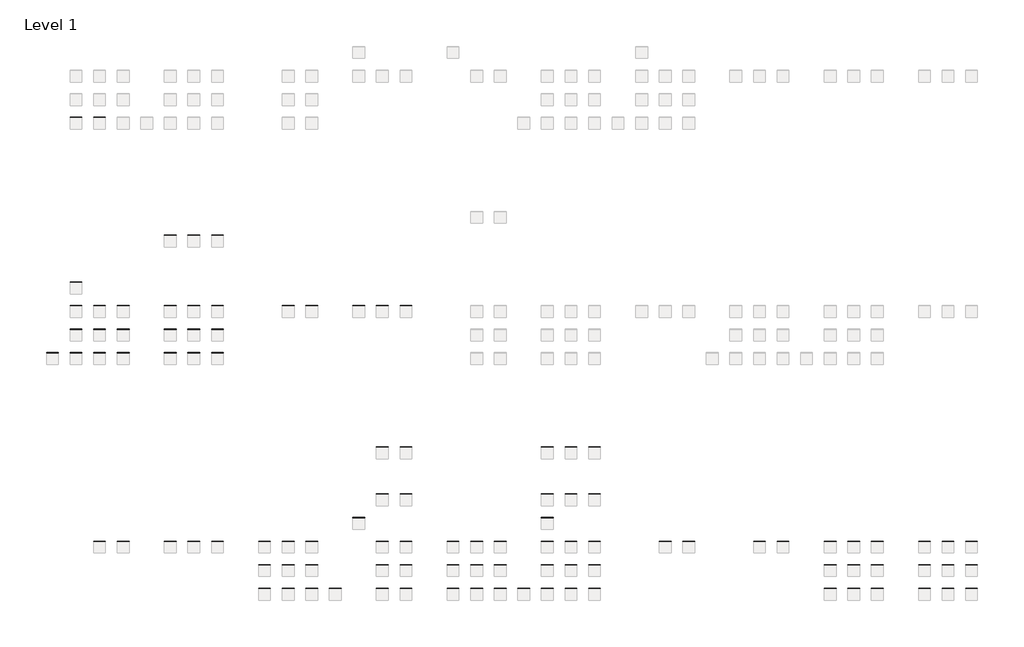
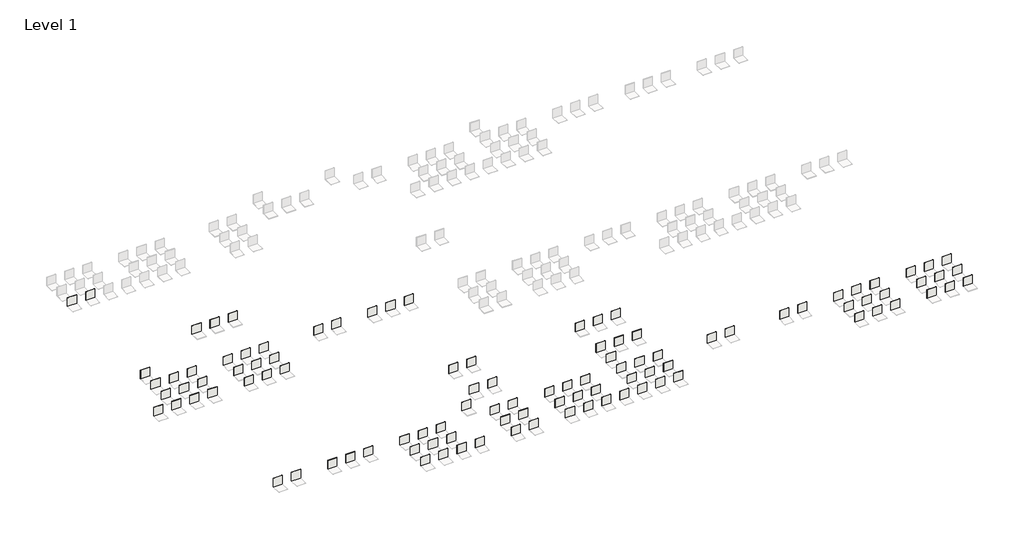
# One storey, part 1 of 4: 104 coverings.
"""IFC4 building model written with IfcOpenShell, lengths in millimetres."""

import ifcopenshell
import ifcopenshell.guid

model = None  # the IFC model being written
_history = None  # IfcOwnerHistory: only IFC2X3 demands one
_inside = {}  # id of a spatial element -> (the spatial element, [elements in it])
_under = {}  # id of a project, library or spatial element -> (it, [spatial elements below it])
_declared = {}  # id of a project -> (the project, [libraries it declares])
_typed = {}  # id of a type object -> (the type object, [elements of that type])
_made_of = {}  # id of a material, layer set ... -> (it, [elements and type objects made of it])


def new_model(schema):
    """Start an empty IFC model of exactly this schema.

    Asked for "IFC4X3", IfcOpenShell would pick the latest addendum, in which some entities
    have other attributes; the version numbers below select the first issue.
    IFC2X3 requires an IfcOwnerHistory on every rooted entity: one is made here for all.
    """
    global model, _history
    if schema == "IFC4X3":
        model = ifcopenshell.file(schema_version=(4, 3, 0, 0))
    else:
        model = ifcopenshell.file(schema=schema)
    _inside.clear()
    _under.clear()
    _declared.clear()
    _typed.clear()
    _made_of.clear()
    _history = None
    if model.schema == "IFC2X3":
        org = make("IfcOrganization", Name="unknown")
        user = make(
            "IfcPersonAndOrganization",
            ThePerson=make("IfcPerson", FamilyName="unknown"),
            TheOrganization=org,
        )
        app = make(
            "IfcApplication",
            ApplicationDeveloper=org,
            Version="unknown",
            ApplicationFullName="unknown",
            ApplicationIdentifier="unknown",
        )
        _history = make(
            "IfcOwnerHistory",
            OwningUser=user,
            OwningApplication=app,
            ChangeAction="ADDED",
            CreationDate=0,
        )
    return model


def make(cls, **values):
    """One entity of the class cls with the attributes given. An attribute that is None is left unset."""
    return model.create_entity(
        cls, **{name: value for name, value in values.items() if value is not None}
    )


def rooted(cls, **values):
    """An entity with a GlobalId (a new one), such as an element, a storey or a relation."""
    return make(cls, GlobalId=ifcopenshell.guid.new(), OwnerHistory=_history, **values)


def si_unit(unit_type, name, prefix=None):
    """IfcSIUnit, for example si_unit("LENGTHUNIT", "METRE", prefix="MILLI")."""
    return make("IfcSIUnit", UnitType=unit_type, Prefix=prefix, Name=name)


def assignment(units):
    """IfcUnitAssignment: the units of a project."""
    return None if units is None else make("IfcUnitAssignment", Units=units)


def point(xyz):
    """IfcCartesianPoint."""
    return None if xyz is None else make("IfcCartesianPoint", Coordinates=xyz)


def direction(xyz):
    """IfcDirection."""
    return None if xyz is None else make("IfcDirection", DirectionRatios=xyz)


def frame(location, z_axis=None, x_axis=None):
    """IfcAxis2Placement3D, a coordinate frame: its origin and axes. An axis left out is left unset."""
    return make(
        "IfcAxis2Placement3D",
        Location=point(location),
        Axis=direction(z_axis),
        RefDirection=direction(x_axis),
    )


def origin():
    """The frame at (0, 0, 0) with its axes left unset."""
    return frame((0.0, 0.0, 0.0))


def origin_with_axes():
    """The frame at (0, 0, 0) with the z axis (0, 0, 1) and the x axis (1, 0, 0) written out."""
    return frame((0.0, 0.0, 0.0), z_axis=(0.0, 0.0, 1.0), x_axis=(1.0, 0.0, 0.0))


def place(relative_to, where):
    """IfcLocalPlacement: puts the frame where relative to a parent placement (None: the world)."""
    return make(
        "IfcLocalPlacement", PlacementRelTo=relative_to, RelativePlacement=where
    )


def context(
    kind, dimensions, precision=None, world=None, true_north=None, identifier=None
):
    """IfcGeometricRepresentationContext, for example the 3D "Model" context."""
    return make(
        "IfcGeometricRepresentationContext",
        ContextIdentifier=identifier,
        ContextType=kind,
        CoordinateSpaceDimension=dimensions,
        Precision=precision,
        WorldCoordinateSystem=world,
        TrueNorth=true_north,
    )


def project(units=None, contexts=None):
    """IfcProject with its units and contexts."""
    return rooted(
        "IfcProject",
        Name="project",
        RepresentationContexts=contexts,
        UnitsInContext=assignment(units),
    )


def spatial(cls, under=None, at=None, **own):
    """A site, building, storey or space (cls), placed at a placement, below another one or the project."""
    s = rooted(cls, ObjectPlacement=at, **own)
    if under is not None:
        _under.setdefault(under.id(), (under, []))[1].append(s)
    return s


def polyline(points):
    """IfcPolyline through the points."""
    return make("IfcPolyline", Points=[point(p) for p in points])


def outline(outer, holes=None, kind="AREA"):
    """IfcArbitraryClosedProfileDef: a profile drawn as a closed curve; with holes, ...WithVoids."""
    if holes is None:
        return make("IfcArbitraryClosedProfileDef", ProfileType=kind, OuterCurve=outer)
    return make(
        "IfcArbitraryProfileDefWithVoids",
        ProfileType=kind,
        OuterCurve=outer,
        InnerCurves=holes,
    )


def extrude(swept, where, along, depth):
    """IfcExtrudedAreaSolid: the profile swept, set in the frame where, extruded along a direction by depth."""
    return make(
        "IfcExtrudedAreaSolid",
        SweptArea=swept,
        Position=where,
        ExtrudedDirection=direction(along),
        Depth=depth,
    )


def shape(context_of_items, identifier, shape_type, items):
    """IfcShapeRepresentation: the items that make up one representation, for example the "Body"."""
    return make(
        "IfcShapeRepresentation",
        ContextOfItems=context_of_items,
        RepresentationIdentifier=identifier,
        RepresentationType=shape_type,
        Items=items,
    )


def made_of(thing, what):
    """Note that an element or type object is made of a material, layer set ...; save() writes the relation."""
    if what is not None:
        _made_of.setdefault(what.id(), (what, []))[1].append(thing)
    return thing


def element(
    cls,
    number,
    at=None,
    inside=None,
    cuts=None,
    type_object=None,
    material=None,
    context=None,
    identifier="Body",
    shape_type=None,
    held_by="IfcProductDefinitionShape",
    body=None,
    shapes=None,
    **own,
):
    """One element of the class cls, such as IfcWall. Its Tag is "e" and its number.

    at: its placement. inside: the storey or other place that contains it. cuts: it is an
    opening in that element (IfcRelVoidsElement). A single representation is given by context,
    identifier, shape_type and body (its items); several are given by shapes. held_by: the class
    of the entity that holds the representations. save() writes the other relations.
    """
    e = rooted(cls, Tag="e%d" % number, ObjectPlacement=at, **own)
    if body is not None:
        shapes = [shape(context, identifier, shape_type, body)]
    if shapes is not None:
        e.Representation = make(held_by, Representations=shapes)
    if inside is not None:
        _inside.setdefault(inside.id(), (inside, []))[1].append(e)
    if cuts is not None:
        rooted(
            "IfcRelVoidsElement", RelatingBuildingElement=cuts, RelatedOpeningElement=e
        )
    if type_object is not None:
        _typed.setdefault(type_object.id(), (type_object, []))[1].append(e)
    return made_of(e, material)


def aggregate(whole, parts):
    """IfcRelAggregates: a whole, such as a stair, and the parts it consists of."""
    return rooted("IfcRelAggregates", RelatingObject=whole, RelatedObjects=parts)


def save(model, path):
    """Write the relations noted so far, then the file.

    IfcRelAggregates (storeys below a building ...), IfcRelContainedInSpatialStructure (elements
    in a storey), IfcRelDefinesByType, IfcRelAssociatesMaterial and IfcRelDeclares: one each for
    every whole, place, type object, material and project.
    """
    for whole, parts in _under.values():
        aggregate(whole, parts)
    for where, things in _inside.values():
        rooted(
            "IfcRelContainedInSpatialStructure",
            RelatedElements=things,
            RelatingStructure=where,
        )
    for kind, things in _typed.values():
        rooted("IfcRelDefinesByType", RelatedObjects=things, RelatingType=kind)
    for what, things in _made_of.values():
        rooted("IfcRelAssociatesMaterial", RelatedObjects=things, RelatingMaterial=what)
    for by, libraries in _declared.values():
        rooted("IfcRelDeclares", RelatingContext=by, RelatedDefinitions=libraries)
    model.write(path)


model = new_model("IFC4")

# Units and contexts
model_context = context("Model", 3, world=origin())
ifc_project = project(units=[si_unit("LENGTHUNIT", "METRE", prefix="MILLI")], contexts=[model_context])

# Site, building, storey
site = spatial("IfcSite", under=ifc_project)
building = spatial("IfcBuilding", under=site)
storey = spatial("IfcBuildingStorey", under=building, Name="Level 1", Elevation=0.0)

# Coverings
placement = place(None, origin())
element("IfcCovering", 1, ObjectType="REVIGRÉS-CROMATICA-BASE-29,7x29,7-MATTRECT-Cromatica_alloy", at=placement, inside=storey, context=model_context, shape_type="SweptSolid", body=[
    extrude(outline(polyline([(3002.0475963, 27398.4324289), (2002.0475963, 27398.4324289), (2002.0475963, 27406.9324289), (3002.0475963, 27406.9324289), (3002.0475963, 27398.4324289)])), origin_with_axes(), (0.0, 0.0, 1.0), 1000.0),
])
element("IfcCovering", 2, ObjectType="REVIGRÉS-CROMATICA-BASE-29,7x29,7-POL-Cromatica_alloy", at=placement, inside=storey, context=model_context, shape_type="SweptSolid", body=[
    extrude(outline(polyline([(5002.0475963, 27398.6824289), (4002.0475963, 27398.6824289), (4002.0475963, 27406.6824289), (5002.0475963, 27406.6824289), (5002.0475963, 27398.6824289)])), origin_with_axes(), (0.0, 0.0, 1.0), 1000.0),
])
element("IfcCovering", 3, ObjectType="REVIGRÉS-CROMATICA-BASE-29,7x29,7-MATTRECT-Cromatica_grafite", at=placement, inside=storey, context=model_context, shape_type="SweptSolid", body=[
    extrude(outline(polyline([(3002.0475963, 7398.432429), (2002.0475963, 7398.432429), (2002.0475963, 7406.932429), (3002.0475963, 7406.932429), (3002.0475963, 7398.432429)])), origin_with_axes(), (0.0, 0.0, 1.0), 1000.0),
])
element("IfcCovering", 4, ObjectType="REVIGRÉS-CROMATICA-BASE-29,7x59,2-MATTRECT-Cromatica_grafite", at=placement, inside=storey, context=model_context, shape_type="SweptSolid", body=[
    extrude(outline(polyline([(3002.0475963, 9398.432429), (2002.0475963, 9398.432429), (2002.0475963, 9406.932429), (3002.0475963, 9406.932429), (3002.0475963, 9398.432429)])), origin_with_axes(), (0.0, 0.0, 1.0), 1000.0),
])
element("IfcCovering", 5, ObjectType="REVIGRÉS-CROMATICA-BASE-59,2x59,2-MATTRECT-Cromatica_grafite", at=placement, inside=storey, context=model_context, shape_type="SweptSolid", body=[
    extrude(outline(polyline([(3002.0475963, 11398.432429), (2002.0475963, 11398.432429), (2002.0475963, 11406.932429), (3002.0475963, 11406.932429), (3002.0475963, 11398.432429)])), origin_with_axes(), (0.0, 0.0, 1.0), 1000.0),
])
element("IfcCovering", 6, ObjectType="REVIGRÉS-CROMATICA-BASE-59,2x59,2_14mm-MATTRECT-Cromatica_grafite", at=placement, inside=storey, context=model_context, shape_type="SweptSolid", body=[
    extrude(outline(polyline([(3002.0475963, 13398.432429), (2002.0475963, 13398.432429), (2002.0475963, 13412.432429), (3002.0475963, 13412.432429), (3002.0475963, 13398.432429)])), origin_with_axes(), (0.0, 0.0, 1.0), 1000.0),
])
element("IfcCovering", 7, ObjectType="REVIGRÉS-CROMATICA-BASE-29,7x29,7-POL-Cromatica_grafite", at=placement, inside=storey, context=model_context, shape_type="SweptSolid", body=[
    extrude(outline(polyline([(5002.0475963, 7398.682429), (4002.0475963, 7398.682429), (4002.0475963, 7406.682429), (5002.0475963, 7406.682429), (5002.0475963, 7398.682429)])), origin_with_axes(), (0.0, 0.0, 1.0), 1000.0),
])
element("IfcCovering", 8, ObjectType="REVIGRÉS-CROMATICA-BASE-29,7x59,2-POL-Cromatica_grafite", at=placement, inside=storey, context=model_context, shape_type="SweptSolid", body=[
    extrude(outline(polyline([(5002.0475963, 9398.432429), (4002.0475963, 9398.432429), (4002.0475963, 9406.432429), (5002.0475963, 9406.432429), (5002.0475963, 9398.432429)])), origin_with_axes(), (0.0, 0.0, 1.0), 1000.0),
])
element("IfcCovering", 9, ObjectType="REVIGRÉS-CROMATICA-BASE-59,2x59,2-POL-Cromatica_grafite", at=placement, inside=storey, context=model_context, shape_type="SweptSolid", body=[
    extrude(outline(polyline([(5002.0475963, 11398.432429), (4002.0475963, 11398.432429), (4002.0475963, 11406.432429), (5002.0475963, 11406.432429), (5002.0475963, 11398.432429)])), origin_with_axes(), (0.0, 0.0, 1.0), 1000.0),
])
element("IfcCovering", 10, ObjectType="REVIGRÉS-CROMATICA-BASE-29,7x29,7-SOFT-Cromatica_grafite", at=placement, inside=storey, context=model_context, shape_type="SweptSolid", body=[
    extrude(outline(polyline([(7002.0475963, 7398.432429), (6002.0475963, 7398.432429), (6002.0475963, 7406.932429), (7002.0475963, 7406.932429), (7002.0475963, 7398.432429)])), origin_with_axes(), (0.0, 0.0, 1.0), 1000.0),
])
element("IfcCovering", 11, ObjectType="REVIGRÉS-CROMATICA-BASE-29,7x59,2-SOFT-Cromatica_grafite", at=placement, inside=storey, context=model_context, shape_type="SweptSolid", body=[
    extrude(outline(polyline([(7002.0475963, 9398.432429), (6002.0475963, 9398.432429), (6002.0475963, 9406.932429), (7002.0475963, 9406.932429), (7002.0475963, 9398.432429)])), origin_with_axes(), (0.0, 0.0, 1.0), 1000.0),
])
element("IfcCovering", 12, ObjectType="REVIGRÉS-CROMATICA-BASE-59,2x59,2-SOFT-Cromatica_grafite", at=placement, inside=storey, context=model_context, shape_type="SweptSolid", body=[
    extrude(outline(polyline([(7002.0475963, 11398.432429), (6002.0475963, 11398.432429), (6002.0475963, 11406.932429), (7002.0475963, 11406.932429), (7002.0475963, 11398.432429)])), origin_with_axes(), (0.0, 0.0, 1.0), 1000.0),
])
element("IfcCovering", 13, ObjectType="REVIGRÉS-CROMATICA-BASE-29,7x29,7-MATTRECT-Cromatica_ice", at=placement, inside=storey, context=model_context, shape_type="SweptSolid", body=[
    extrude(outline(polyline([(11002.0475963, 7398.432429), (10002.0475963, 7398.432429), (10002.0475963, 7406.932429), (11002.0475963, 7406.932429), (11002.0475963, 7398.432429)])), origin_with_axes(), (0.0, 0.0, 1.0), 1000.0),
])
element("IfcCovering", 14, ObjectType="REVIGRÉS-CROMATICA-BASE-29,7x59,2-MATTRECT-Cromatica_ice", at=placement, inside=storey, context=model_context, shape_type="SweptSolid", body=[
    extrude(outline(polyline([(11002.0475963, 9398.432429), (10002.0475963, 9398.432429), (10002.0475963, 9406.932429), (11002.0475963, 9406.932429), (11002.0475963, 9398.432429)])), origin_with_axes(), (0.0, 0.0, 1.0), 1000.0),
])
element("IfcCovering", 15, ObjectType="REVIGRÉS-CROMATICA-BASE-59,2x59,2-MATTRECT-Cromatica_ice", at=placement, inside=storey, context=model_context, shape_type="SweptSolid", body=[
    extrude(outline(polyline([(11002.0475963, 11398.432429), (10002.0475963, 11398.432429), (10002.0475963, 11406.932429), (11002.0475963, 11406.932429), (11002.0475963, 11398.432429)])), origin_with_axes(), (0.0, 0.0, 1.0), 1000.0),
])
element("IfcCovering", 16, ObjectType="REVIGRÉS-CROMATICA-BASE-29,7x29,7-POL-Cromatica_ice", at=placement, inside=storey, context=model_context, shape_type="SweptSolid", body=[
    extrude(outline(polyline([(13002.0475963, 7398.682429), (12002.0475963, 7398.682429), (12002.0475963, 7406.682429), (13002.0475963, 7406.682429), (13002.0475963, 7398.682429)])), origin_with_axes(), (0.0, 0.0, 1.0), 1000.0),
])
element("IfcCovering", 17, ObjectType="REVIGRÉS-CROMATICA-BASE-29,7x59,2-POL-Cromatica_ice", at=placement, inside=storey, context=model_context, shape_type="SweptSolid", body=[
    extrude(outline(polyline([(13002.0475963, 9398.432429), (12002.0475963, 9398.432429), (12002.0475963, 9406.432429), (13002.0475963, 9406.432429), (13002.0475963, 9398.432429)])), origin_with_axes(), (0.0, 0.0, 1.0), 1000.0),
])
element("IfcCovering", 18, ObjectType="REVIGRÉS-CROMATICA-BASE-59,2x59,2-POL-Cromatica_ice", at=placement, inside=storey, context=model_context, shape_type="SweptSolid", body=[
    extrude(outline(polyline([(13002.0475963, 11398.432429), (12002.0475963, 11398.432429), (12002.0475963, 11406.432429), (13002.0475963, 11406.432429), (13002.0475963, 11398.432429)])), origin_with_axes(), (0.0, 0.0, 1.0), 1000.0),
])
element("IfcCovering", 19, ObjectType="REVIGRÉS-CROMATICA-BASE-29,7x29,7-SOFT-Cromatica_ice", at=placement, inside=storey, context=model_context, shape_type="SweptSolid", body=[
    extrude(outline(polyline([(15002.0475963, 7398.432429), (14002.0475963, 7398.432429), (14002.0475963, 7406.932429), (15002.0475963, 7406.932429), (15002.0475963, 7398.432429)])), origin_with_axes(), (0.0, 0.0, 1.0), 1000.0),
])
element("IfcCovering", 20, ObjectType="REVIGRÉS-CROMATICA-BASE-29,7x59,2-SOFT-Cromatica_ice", at=placement, inside=storey, context=model_context, shape_type="SweptSolid", body=[
    extrude(outline(polyline([(15002.0475963, 9398.432429), (14002.0475963, 9398.432429), (14002.0475963, 9406.932429), (15002.0475963, 9406.932429), (15002.0475963, 9398.432429)])), origin_with_axes(), (0.0, 0.0, 1.0), 1000.0),
])
element("IfcCovering", 21, ObjectType="REVIGRÉS-CROMATICA-BASE-59,2x59,2-SOFT-Cromatica_ice", at=placement, inside=storey, context=model_context, shape_type="SweptSolid", body=[
    extrude(outline(polyline([(15002.0475963, 11398.432429), (14002.0475963, 11398.432429), (14002.0475963, 11406.932429), (15002.0475963, 11406.932429), (15002.0475963, 11398.432429)])), origin_with_axes(), (0.0, 0.0, 1.0), 1000.0),
])
element("IfcCovering", 22, ObjectType="REVIGRÉS-CROMATICA-BASE-59,2x59,2-POL-Cromatica_indigo", at=placement, inside=storey, context=model_context, shape_type="SweptSolid", body=[
    extrude(outline(polyline([(21002.0475963, 11398.432429), (20002.0475963, 11398.432429), (20002.0475963, 11406.432429), (21002.0475963, 11406.432429), (21002.0475963, 11398.432429)])), origin_with_axes(), (0.0, 0.0, 1.0), 1000.0),
])
element("IfcCovering", 23, ObjectType="REVIGRÉS-CROMATICA-BASE-59,2x59,2-SOFT-Cromatica_indigo", at=placement, inside=storey, context=model_context, shape_type="SweptSolid", body=[
    extrude(outline(polyline([(23002.0475963, 11398.432429), (22002.0475963, 11398.432429), (22002.0475963, 11406.932429), (23002.0475963, 11406.932429), (23002.0475963, 11398.432429)])), origin_with_axes(), (0.0, 0.0, 1.0), 1000.0),
])
element("IfcCovering", 24, ObjectType="REVIGRÉS-CROMATICA-BASE-87x87-MATTRECT-Cromatica_ice", at=placement, inside=storey, context=model_context, shape_type="SweptSolid", body=[
    extrude(outline(polyline([(11002.0475963, 17398.432429), (10002.0475963, 17398.432429), (10002.0475963, 17408.932429), (11002.0475963, 17408.932429), (11002.0475963, 17398.432429)])), origin_with_axes(), (0.0, 0.0, 1.0), 1000.0),
])
element("IfcCovering", 25, ObjectType="REVIGRÉS-CROMATICA-BASE-87x87-POL-Cromatica_ice", at=placement, inside=storey, context=model_context, shape_type="SweptSolid", body=[
    extrude(outline(polyline([(13002.0475963, 17398.432429), (12002.0475963, 17398.432429), (12002.0475963, 17408.232429), (13002.0475963, 17408.232429), (13002.0475963, 17398.432429)])), origin_with_axes(), (0.0, 0.0, 1.0), 1000.0),
])
element("IfcCovering", 26, ObjectType="REVIGRÉS-CROMATICA-BASE-87x87-SOFT-Cromatica_ice", at=placement, inside=storey, context=model_context, shape_type="SweptSolid", body=[
    extrude(outline(polyline([(15002.0475963, 17398.432429), (14002.0475963, 17398.432429), (14002.0475963, 17408.932429), (15002.0475963, 17408.932429), (15002.0475963, 17398.432429)])), origin_with_axes(), (0.0, 0.0, 1.0), 1000.0),
])
element("IfcCovering", 27, ObjectType="REVIGRÉS-CROMATICA-BASE-59,2x59,2-MATTRECT-Cromatica_jade", at=placement, inside=storey, context=model_context, shape_type="SweptSolid", body=[
    extrude(outline(polyline([(27002.0475963, 11398.432429), (26002.0475963, 11398.432429), (26002.0475963, 11406.932429), (27002.0475963, 11406.932429), (27002.0475963, 11398.432429)])), origin_with_axes(), (0.0, 0.0, 1.0), 1000.0),
])
element("IfcCovering", 28, ObjectType="REVIGRÉS-CROMATICA-BASE-59,2x59,2-POL-Cromatica_jade", at=placement, inside=storey, context=model_context, shape_type="SweptSolid", body=[
    extrude(outline(polyline([(29002.0475963, 11398.432429), (28002.0475963, 11398.432429), (28002.0475963, 11406.432429), (29002.0475963, 11406.432429), (29002.0475963, 11398.432429)])), origin_with_axes(), (0.0, 0.0, 1.0), 1000.0),
])
element("IfcCovering", 29, ObjectType="REVIGRÉS-CROMATICA-BASE-59,2x59,2-SOFT-Cromatica_jade", at=placement, inside=storey, context=model_context, shape_type="SweptSolid", body=[
    extrude(outline(polyline([(31002.0475963, 11398.432429), (30002.0475963, 11398.432429), (30002.0475963, 11406.932429), (31002.0475963, 11406.932429), (31002.0475963, 11398.432429)])), origin_with_axes(), (0.0, 0.0, 1.0), 1000.0),
])
element("IfcCovering", 30, ObjectType="REVIGRÉS-CROMATICA-BASE-59,2x59,2-POL-Cromatica_palm", at=placement, inside=storey, context=model_context, shape_type="SweptSolid", body=[
    extrude(outline(polyline([(5002.0475963, -8601.567571), (4002.0475963, -8601.567571), (4002.0475963, -8593.567571), (5002.0475963, -8593.567571), (5002.0475963, -8601.567571)])), origin_with_axes(), (0.0, 0.0, 1.0), 1000.0),
])
element("IfcCovering", 31, ObjectType="REVIGRÉS-CROMATICA-BASE-59,2x59,2-SOFT-Cromatica_palm", at=placement, inside=storey, context=model_context, shape_type="SweptSolid", body=[
    extrude(outline(polyline([(7002.0475963, -8601.567571), (6002.0475963, -8601.567571), (6002.0475963, -8593.067571), (7002.0475963, -8593.067571), (7002.0475963, -8601.567571)])), origin_with_axes(), (0.0, 0.0, 1.0), 1000.0),
])
element("IfcCovering", 32, ObjectType="REVIGRÉS-CROMATICA-BASE-59,2x59,2-POL-Cromatica_pistachio", at=placement, inside=storey, context=model_context, shape_type="SweptSolid", body=[
    extrude(outline(polyline([(13002.0475963, -8601.567571), (12002.0475963, -8601.567571), (12002.0475963, -8593.567571), (13002.0475963, -8593.567571), (13002.0475963, -8601.567571)])), origin_with_axes(), (0.0, 0.0, 1.0), 1000.0),
])
element("IfcCovering", 33, ObjectType="REVIGRÉS-CROMATICA-BASE-59,2x59,2-SOFT-Cromatica_pistachio", at=placement, inside=storey, context=model_context, shape_type="SweptSolid", body=[
    extrude(outline(polyline([(15002.0475963, -8601.567571), (14002.0475963, -8601.567571), (14002.0475963, -8593.067571), (15002.0475963, -8593.067571), (15002.0475963, -8601.567571)])), origin_with_axes(), (0.0, 0.0, 1.0), 1000.0),
])
element("IfcCovering", 34, ObjectType="REVIGRÉS-CROMATICA-BASE-29,7x29,7-MATTRECT-Cromatica_platina", at=placement, inside=storey, context=model_context, shape_type="SweptSolid", body=[
    extrude(outline(polyline([(19002.0475963, -12601.567571), (18002.0475963, -12601.567571), (18002.0475963, -12593.067571), (19002.0475963, -12593.067571), (19002.0475963, -12601.567571)])), origin_with_axes(), (0.0, 0.0, 1.0), 1000.0),
])
element("IfcCovering", 35, ObjectType="REVIGRÉS-CROMATICA-BASE-29,7x59,2-MATTRECT-Cromatica_platina", at=placement, inside=storey, context=model_context, shape_type="SweptSolid", body=[
    extrude(outline(polyline([(19002.0475963, -10601.567571), (18002.0475963, -10601.567571), (18002.0475963, -10593.067571), (19002.0475963, -10593.067571), (19002.0475963, -10601.567571)])), origin_with_axes(), (0.0, 0.0, 1.0), 1000.0),
])
element("IfcCovering", 36, ObjectType="REVIGRÉS-CROMATICA-BASE-59,2x59,2-MATTRECT-Cromatica_platina", at=placement, inside=storey, context=model_context, shape_type="SweptSolid", body=[
    extrude(outline(polyline([(19002.0475963, -8601.567571), (18002.0475963, -8601.567571), (18002.0475963, -8593.067571), (19002.0475963, -8593.067571), (19002.0475963, -8601.567571)])), origin_with_axes(), (0.0, 0.0, 1.0), 1000.0),
])
element("IfcCovering", 37, ObjectType="REVIGRÉS-CROMATICA-BASE-29,7x29,7-POL-Cromatica_platina", at=placement, inside=storey, context=model_context, shape_type="SweptSolid", body=[
    extrude(outline(polyline([(21002.0475963, -12601.317571), (20002.0475963, -12601.317571), (20002.0475963, -12593.317571), (21002.0475963, -12593.317571), (21002.0475963, -12601.317571)])), origin_with_axes(), (0.0, 0.0, 1.0), 1000.0),
])
element("IfcCovering", 38, ObjectType="REVIGRÉS-CROMATICA-BASE-29,7x59,2-POL-Cromatica_platina", at=placement, inside=storey, context=model_context, shape_type="SweptSolid", body=[
    extrude(outline(polyline([(21002.0475963, -10601.567571), (20002.0475963, -10601.567571), (20002.0475963, -10593.567571), (21002.0475963, -10593.567571), (21002.0475963, -10601.567571)])), origin_with_axes(), (0.0, 0.0, 1.0), 1000.0),
])
element("IfcCovering", 39, ObjectType="REVIGRÉS-CROMATICA-BASE-59,2x59,2-POL-Cromatica_platina", at=placement, inside=storey, context=model_context, shape_type="SweptSolid", body=[
    extrude(outline(polyline([(21002.0475963, -8601.567571), (20002.0475963, -8601.567571), (20002.0475963, -8593.567571), (21002.0475963, -8593.567571), (21002.0475963, -8601.567571)])), origin_with_axes(), (0.0, 0.0, 1.0), 1000.0),
])
element("IfcCovering", 40, ObjectType="REVIGRÉS-CROMATICA-BASE-29,7x29,7-SOFT-Cromatica_platina", at=placement, inside=storey, context=model_context, shape_type="SweptSolid", body=[
    extrude(outline(polyline([(23002.0475963, -12601.567571), (22002.0475963, -12601.567571), (22002.0475963, -12593.067571), (23002.0475963, -12593.067571), (23002.0475963, -12601.567571)])), origin_with_axes(), (0.0, 0.0, 1.0), 1000.0),
])
element("IfcCovering", 41, ObjectType="REVIGRÉS-CROMATICA-BASE-29,7x59,2-SOFT-Cromatica_platina", at=placement, inside=storey, context=model_context, shape_type="SweptSolid", body=[
    extrude(outline(polyline([(23002.0475963, -10601.567571), (22002.0475963, -10601.567571), (22002.0475963, -10593.067571), (23002.0475963, -10593.067571), (23002.0475963, -10601.567571)])), origin_with_axes(), (0.0, 0.0, 1.0), 1000.0),
])
element("IfcCovering", 42, ObjectType="REVIGRÉS-CROMATICA-BASE-59,2x59,2-SOFT-Cromatica_platina", at=placement, inside=storey, context=model_context, shape_type="SweptSolid", body=[
    extrude(outline(polyline([(23002.0475963, -8601.567571), (22002.0475963, -8601.567571), (22002.0475963, -8593.067571), (23002.0475963, -8593.067571), (23002.0475963, -8601.567571)])), origin_with_axes(), (0.0, 0.0, 1.0), 1000.0),
])
element("IfcCovering", 43, ObjectType="REVIGRÉS-CROMATICA-BASE-29,7x29,7-POL-Cromatica_preto", at=placement, inside=storey, context=model_context, shape_type="SweptSolid", body=[
    extrude(outline(polyline([(29002.0475963, -12601.317571), (28002.0475963, -12601.317571), (28002.0475963, -12593.317571), (29002.0475963, -12593.317571), (29002.0475963, -12601.317571)])), origin_with_axes(), (0.0, 0.0, 1.0), 1000.0),
])
element("IfcCovering", 44, ObjectType="REVIGRÉS-CROMATICA-BASE-29,7x59,2-POL-Cromatica_preto", at=placement, inside=storey, context=model_context, shape_type="SweptSolid", body=[
    extrude(outline(polyline([(29002.0475963, -10601.567571), (28002.0475963, -10601.567571), (28002.0475963, -10593.567571), (29002.0475963, -10593.567571), (29002.0475963, -10601.567571)])), origin_with_axes(), (0.0, 0.0, 1.0), 1000.0),
])
element("IfcCovering", 45, ObjectType="REVIGRÉS-CROMATICA-BASE-59,2x59,2-POL-Cromatica_preto", at=placement, inside=storey, context=model_context, shape_type="SweptSolid", body=[
    extrude(outline(polyline([(29002.0475963, -8601.567571), (28002.0475963, -8601.567571), (28002.0475963, -8593.567571), (29002.0475963, -8593.567571), (29002.0475963, -8601.567571)])), origin_with_axes(), (0.0, 0.0, 1.0), 1000.0),
])
element("IfcCovering", 46, ObjectType="REVIGRÉS-CROMATICA-BASE-29,7x29,7-SOFT-Cromatica_preto", at=placement, inside=storey, context=model_context, shape_type="SweptSolid", body=[
    extrude(outline(polyline([(31002.0475963, -12601.567571), (30002.0475963, -12601.567571), (30002.0475963, -12593.067571), (31002.0475963, -12593.067571), (31002.0475963, -12601.567571)])), origin_with_axes(), (0.0, 0.0, 1.0), 1000.0),
])
element("IfcCovering", 47, ObjectType="REVIGRÉS-CROMATICA-BASE-29,7x59,2-SOFT-Cromatica_preto", at=placement, inside=storey, context=model_context, shape_type="SweptSolid", body=[
    extrude(outline(polyline([(31002.0475963, -10601.567571), (30002.0475963, -10601.567571), (30002.0475963, -10593.067571), (31002.0475963, -10593.067571), (31002.0475963, -10601.567571)])), origin_with_axes(), (0.0, 0.0, 1.0), 1000.0),
])
element("IfcCovering", 48, ObjectType="REVIGRÉS-CROMATICA-BASE-59,2x59,2-SOFT-Cromatica_preto", at=placement, inside=storey, context=model_context, shape_type="SweptSolid", body=[
    extrude(outline(polyline([(31002.0475963, -8601.567571), (30002.0475963, -8601.567571), (30002.0475963, -8593.067571), (31002.0475963, -8593.067571), (31002.0475963, -8601.567571)])), origin_with_axes(), (0.0, 0.0, 1.0), 1000.0),
])
element("IfcCovering", 49, ObjectType="REVIGRÉS-CROMATICA-BASE-29,7x29,7-MATTNAT-Cromatica_preto", at=placement, inside=storey, context=model_context, shape_type="SweptSolid", body=[
    extrude(outline(polyline([(25002.0475963, -12601.967571), (24002.0475963, -12601.967571), (24002.0475963, -12593.467571), (25002.0475963, -12593.467571), (25002.0475963, -12601.967571)])), origin_with_axes(), (0.0, 0.0, 1.0), 1000.0),
])
element("IfcCovering", 50, ObjectType="REVIGRÉS-CROMATICA-BASE-29,7x29,7-MATTRECT-Cromatica_quartz", at=placement, inside=storey, context=model_context, shape_type="SweptSolid", body=[
    extrude(outline(polyline([(35002.0475963, -12601.567571), (34002.0475963, -12601.567571), (34002.0475963, -12593.067571), (35002.0475963, -12593.067571), (35002.0475963, -12601.567571)])), origin_with_axes(), (0.0, 0.0, 1.0), 1000.0),
])
element("IfcCovering", 51, ObjectType="REVIGRÉS-CROMATICA-BASE-29,7x59,2-MATTRECT-Cromatica_quartz", at=placement, inside=storey, context=model_context, shape_type="SweptSolid", body=[
    extrude(outline(polyline([(35002.0475963, -10601.567571), (34002.0475963, -10601.567571), (34002.0475963, -10593.067571), (35002.0475963, -10593.067571), (35002.0475963, -10601.567571)])), origin_with_axes(), (0.0, 0.0, 1.0), 1000.0),
])
element("IfcCovering", 52, ObjectType="REVIGRÉS-CROMATICA-BASE-59,2x59,2-MATTRECT-Cromatica_quartz", at=placement, inside=storey, context=model_context, shape_type="SweptSolid", body=[
    extrude(outline(polyline([(35002.0475963, -8601.567571), (34002.0475963, -8601.567571), (34002.0475963, -8593.067571), (35002.0475963, -8593.067571), (35002.0475963, -8601.567571)])), origin_with_axes(), (0.0, 0.0, 1.0), 1000.0),
])
element("IfcCovering", 53, ObjectType="REVIGRÉS-CROMATICA-BASE-29,7x29,7-POL-Cromatica_quartz", at=placement, inside=storey, context=model_context, shape_type="SweptSolid", body=[
    extrude(outline(polyline([(37002.0475963, -12601.317571), (36002.0475963, -12601.317571), (36002.0475963, -12593.317571), (37002.0475963, -12593.317571), (37002.0475963, -12601.317571)])), origin_with_axes(), (0.0, 0.0, 1.0), 1000.0),
])
element("IfcCovering", 54, ObjectType="REVIGRÉS-CROMATICA-BASE-29,7x59,2-POL-Cromatica_quartz", at=placement, inside=storey, context=model_context, shape_type="SweptSolid", body=[
    extrude(outline(polyline([(37002.0475963, -10601.567571), (36002.0475963, -10601.567571), (36002.0475963, -10593.567571), (37002.0475963, -10593.567571), (37002.0475963, -10601.567571)])), origin_with_axes(), (0.0, 0.0, 1.0), 1000.0),
])
element("IfcCovering", 55, ObjectType="REVIGRÉS-CROMATICA-BASE-59,2x59,2-POL-Cromatica_quartz", at=placement, inside=storey, context=model_context, shape_type="SweptSolid", body=[
    extrude(outline(polyline([(37002.0475963, -8601.567571), (36002.0475963, -8601.567571), (36002.0475963, -8593.567571), (37002.0475963, -8593.567571), (37002.0475963, -8601.567571)])), origin_with_axes(), (0.0, 0.0, 1.0), 1000.0),
])
element("IfcCovering", 56, ObjectType="REVIGRÉS-CROMATICA-BASE-29,7x29,7-SOFT-Cromatica_quartz", at=placement, inside=storey, context=model_context, shape_type="SweptSolid", body=[
    extrude(outline(polyline([(39002.0475963, -12601.567571), (38002.0475963, -12601.567571), (38002.0475963, -12593.067571), (39002.0475963, -12593.067571), (39002.0475963, -12601.567571)])), origin_with_axes(), (0.0, 0.0, 1.0), 1000.0),
])
element("IfcCovering", 57, ObjectType="REVIGRÉS-CROMATICA-BASE-29,7x59,2-SOFT-Cromatica_quartz", at=placement, inside=storey, context=model_context, shape_type="SweptSolid", body=[
    extrude(outline(polyline([(39002.0475963, -10601.567571), (38002.0475963, -10601.567571), (38002.0475963, -10593.067571), (39002.0475963, -10593.067571), (39002.0475963, -10601.567571)])), origin_with_axes(), (0.0, 0.0, 1.0), 1000.0),
])
element("IfcCovering", 58, ObjectType="REVIGRÉS-CROMATICA-BASE-59,2x59,2-SOFT-Cromatica_quartz", at=placement, inside=storey, context=model_context, shape_type="SweptSolid", body=[
    extrude(outline(polyline([(39002.0475963, -8601.567571), (38002.0475963, -8601.567571), (38002.0475963, -8593.067571), (39002.0475963, -8593.067571), (39002.0475963, -8601.567571)])), origin_with_axes(), (0.0, 0.0, 1.0), 1000.0),
])
element("IfcCovering", 59, ObjectType="REVIGRÉS-CROMATICA-BASE-29,7x29,7-MATTRECT-Cromatica_superbranco", at=placement, inside=storey, context=model_context, shape_type="SweptSolid", body=[
    extrude(outline(polyline([(43002.0475963, -12601.567571), (42002.0475963, -12601.567571), (42002.0475963, -12593.067571), (43002.0475963, -12593.067571), (43002.0475963, -12601.567571)])), origin_with_axes(), (0.0, 0.0, 1.0), 1000.0),
])
element("IfcCovering", 60, ObjectType="REVIGRÉS-CROMATICA-BASE-29,7x59,2-MATTRECT-Cromatica_superbranco", at=placement, inside=storey, context=model_context, shape_type="SweptSolid", body=[
    extrude(outline(polyline([(43002.0475963, -10601.567571), (42002.0475963, -10601.567571), (42002.0475963, -10593.067571), (43002.0475963, -10593.067571), (43002.0475963, -10601.567571)])), origin_with_axes(), (0.0, 0.0, 1.0), 1000.0),
])
element("IfcCovering", 61, ObjectType="REVIGRÉS-CROMATICA-BASE-59,2x59,2-MATTRECT-Cromatica_superbranco", at=placement, inside=storey, context=model_context, shape_type="SweptSolid", body=[
    extrude(outline(polyline([(43002.0475963, -8601.567571), (42002.0475963, -8601.567571), (42002.0475963, -8593.067571), (43002.0475963, -8593.067571), (43002.0475963, -8601.567571)])), origin_with_axes(), (0.0, 0.0, 1.0), 1000.0),
])
element("IfcCovering", 62, ObjectType="REVIGRÉS-CROMATICA-BASE-59,2x59,2_14mm-MATTRECT-Cromatica_superbranco", at=placement, inside=storey, context=model_context, shape_type="SweptSolid", body=[
    extrude(outline(polyline([(43002.0475963, -6601.567571), (42002.0475963, -6601.567571), (42002.0475963, -6587.567571), (43002.0475963, -6587.567571), (43002.0475963, -6601.567571)])), origin_with_axes(), (0.0, 0.0, 1.0), 1000.0),
])
element("IfcCovering", 63, ObjectType="REVIGRÉS-CROMATICA-BASE-59,2x118,6-MATTRECT-Cromatica_superbranco", at=placement, inside=storey, context=model_context, shape_type="SweptSolid", body=[
    extrude(outline(polyline([(43002.0475963, -4601.567571), (42002.0475963, -4601.567571), (42002.0475963, -4591.767571), (43002.0475963, -4591.767571), (43002.0475963, -4601.567571)])), origin_with_axes(), (0.0, 0.0, 1.0), 1000.0),
])
element("IfcCovering", 64, ObjectType="REVIGRÉS-CROMATICA-BASE-29,7x29,7-POL-Cromatica_superbranco", at=placement, inside=storey, context=model_context, shape_type="SweptSolid", body=[
    extrude(outline(polyline([(45002.0475963, -12601.317571), (44002.0475963, -12601.317571), (44002.0475963, -12593.317571), (45002.0475963, -12593.317571), (45002.0475963, -12601.317571)])), origin_with_axes(), (0.0, 0.0, 1.0), 1000.0),
])
element("IfcCovering", 65, ObjectType="REVIGRÉS-CROMATICA-BASE-29,7x59,2-POL-Cromatica_superbranco", at=placement, inside=storey, context=model_context, shape_type="SweptSolid", body=[
    extrude(outline(polyline([(45002.0475963, -10601.567571), (44002.0475963, -10601.567571), (44002.0475963, -10593.567571), (45002.0475963, -10593.567571), (45002.0475963, -10601.567571)])), origin_with_axes(), (0.0, 0.0, 1.0), 1000.0),
])
element("IfcCovering", 66, ObjectType="REVIGRÉS-CROMATICA-BASE-59,2x59,2-POL-Cromatica_superbranco", at=placement, inside=storey, context=model_context, shape_type="SweptSolid", body=[
    extrude(outline(polyline([(45002.0475963, -8601.567571), (44002.0475963, -8601.567571), (44002.0475963, -8593.567571), (45002.0475963, -8593.567571), (45002.0475963, -8601.567571)])), origin_with_axes(), (0.0, 0.0, 1.0), 1000.0),
])
element("IfcCovering", 67, ObjectType="REVIGRÉS-CROMATICA-BASE-59,2x118,6-POL-Cromatica_superbranco", at=placement, inside=storey, context=model_context, shape_type="SweptSolid", body=[
    extrude(outline(polyline([(45002.0475963, -4601.567571), (44002.0475963, -4601.567571), (44002.0475963, -4592.267571), (45002.0475963, -4592.267571), (45002.0475963, -4601.567571)])), origin_with_axes(), (0.0, 0.0, 1.0), 1000.0),
])
element("IfcCovering", 68, ObjectType="REVIGRÉS-CROMATICA-BASE-29,7x29,7-SOFT-Cromatica_superbranco", at=placement, inside=storey, context=model_context, shape_type="SweptSolid", body=[
    extrude(outline(polyline([(47002.0475963, -12601.567571), (46002.0475963, -12601.567571), (46002.0475963, -12593.067571), (47002.0475963, -12593.067571), (47002.0475963, -12601.567571)])), origin_with_axes(), (0.0, 0.0, 1.0), 1000.0),
])
element("IfcCovering", 69, ObjectType="REVIGRÉS-CROMATICA-BASE-29,7x59,2-SOFT-Cromatica_superbranco", at=placement, inside=storey, context=model_context, shape_type="SweptSolid", body=[
    extrude(outline(polyline([(47002.0475963, -10601.567571), (46002.0475963, -10601.567571), (46002.0475963, -10593.067571), (47002.0475963, -10593.067571), (47002.0475963, -10601.567571)])), origin_with_axes(), (0.0, 0.0, 1.0), 1000.0),
])
element("IfcCovering", 70, ObjectType="REVIGRÉS-CROMATICA-BASE-59,2x59,2-SOFT-Cromatica_superbranco", at=placement, inside=storey, context=model_context, shape_type="SweptSolid", body=[
    extrude(outline(polyline([(47002.0475963, -8601.567571), (46002.0475963, -8601.567571), (46002.0475963, -8593.067571), (47002.0475963, -8593.067571), (47002.0475963, -8601.567571)])), origin_with_axes(), (0.0, 0.0, 1.0), 1000.0),
])
element("IfcCovering", 71, ObjectType="REVIGRÉS-CROMATICA-BASE-59,2x118,6-SOFT-Cromatica_superbranco", at=placement, inside=storey, context=model_context, shape_type="SweptSolid", body=[
    extrude(outline(polyline([(47002.0475963, -4601.567571), (46002.0475963, -4601.567571), (46002.0475963, -4591.767571), (47002.0475963, -4591.767571), (47002.0475963, -4601.567571)])), origin_with_axes(), (0.0, 0.0, 1.0), 1000.0),
])
element("IfcCovering", 72, ObjectType="REVIGRÉS-CROMATICA-BASE-29,7x29,7-MATTNAT-Cromatica_superbranco", at=placement, inside=storey, context=model_context, shape_type="SweptSolid", body=[
    extrude(outline(polyline([(41002.0475963, -12601.967571), (40002.0475963, -12601.967571), (40002.0475963, -12593.467571), (41002.0475963, -12593.467571), (41002.0475963, -12601.967571)])), origin_with_axes(), (0.0, 0.0, 1.0), 1000.0),
])
element("IfcCovering", 73, ObjectType="REVIGRÉS-CROMATICA-BASE-59,2x59,2-POL-Cromatica_teal", at=placement, inside=storey, context=model_context, shape_type="SweptSolid", body=[
    extrude(outline(polyline([(53002.0475963, -8601.567571), (52002.0475963, -8601.567571), (52002.0475963, -8593.567571), (53002.0475963, -8593.567571), (53002.0475963, -8601.567571)])), origin_with_axes(), (0.0, 0.0, 1.0), 1000.0),
])
element("IfcCovering", 74, ObjectType="REVIGRÉS-CROMATICA-BASE-59,2x59,2-SOFT-Cromatica_teal", at=placement, inside=storey, context=model_context, shape_type="SweptSolid", body=[
    extrude(outline(polyline([(55002.0475963, -8601.567571), (54002.0475963, -8601.567571), (54002.0475963, -8593.067571), (55002.0475963, -8593.067571), (55002.0475963, -8601.567571)])), origin_with_axes(), (0.0, 0.0, 1.0), 1000.0),
])
element("IfcCovering", 75, ObjectType="REVIGRÉS-CROMATICA-BASE-59,2x59,2-POL-Cromatica_terracotta", at=placement, inside=storey, context=model_context, shape_type="SweptSolid", body=[
    extrude(outline(polyline([(61002.0475963, -8601.567571), (60002.0475963, -8601.567571), (60002.0475963, -8593.567571), (61002.0475963, -8593.567571), (61002.0475963, -8601.567571)])), origin_with_axes(), (0.0, 0.0, 1.0), 1000.0),
])
element("IfcCovering", 76, ObjectType="REVIGRÉS-CROMATICA-BASE-59,2x59,2-SOFT-Cromatica_terracotta", at=placement, inside=storey, context=model_context, shape_type="SweptSolid", body=[
    extrude(outline(polyline([(63002.0475963, -8601.567571), (62002.0475963, -8601.567571), (62002.0475963, -8593.067571), (63002.0475963, -8593.067571), (63002.0475963, -8601.567571)])), origin_with_axes(), (0.0, 0.0, 1.0), 1000.0),
])
element("IfcCovering", 77, ObjectType="REVIGRÉS-CROMATICA-BASE-29,7x29,7-MATTRECT-Cromatica_titanium", at=placement, inside=storey, context=model_context, shape_type="SweptSolid", body=[
    extrude(outline(polyline([(67002.0475963, -12601.567571), (66002.0475963, -12601.567571), (66002.0475963, -12593.067571), (67002.0475963, -12593.067571), (67002.0475963, -12601.567571)])), origin_with_axes(), (0.0, 0.0, 1.0), 1000.0),
])
element("IfcCovering", 78, ObjectType="REVIGRÉS-CROMATICA-BASE-29,7x59,2-MATTRECT-Cromatica_titanium", at=placement, inside=storey, context=model_context, shape_type="SweptSolid", body=[
    extrude(outline(polyline([(67002.0475963, -10601.567571), (66002.0475963, -10601.567571), (66002.0475963, -10593.067571), (67002.0475963, -10593.067571), (67002.0475963, -10601.567571)])), origin_with_axes(), (0.0, 0.0, 1.0), 1000.0),
])
element("IfcCovering", 79, ObjectType="REVIGRÉS-CROMATICA-BASE-59,2x59,2-MATTRECT-Cromatica_titanium", at=placement, inside=storey, context=model_context, shape_type="SweptSolid", body=[
    extrude(outline(polyline([(67002.0475963, -8601.567571), (66002.0475963, -8601.567571), (66002.0475963, -8593.067571), (67002.0475963, -8593.067571), (67002.0475963, -8601.567571)])), origin_with_axes(), (0.0, 0.0, 1.0), 1000.0),
])
element("IfcCovering", 80, ObjectType="REVIGRÉS-CROMATICA-BASE-29,7x29,7-POL-Cromatica_titanium", at=placement, inside=storey, context=model_context, shape_type="SweptSolid", body=[
    extrude(outline(polyline([(69002.0475963, -12601.317571), (68002.0475963, -12601.317571), (68002.0475963, -12593.317571), (69002.0475963, -12593.317571), (69002.0475963, -12601.317571)])), origin_with_axes(), (0.0, 0.0, 1.0), 1000.0),
])
element("IfcCovering", 81, ObjectType="REVIGRÉS-CROMATICA-BASE-29,7x59,2-POL-Cromatica_titanium", at=placement, inside=storey, context=model_context, shape_type="SweptSolid", body=[
    extrude(outline(polyline([(69002.0475963, -10601.567571), (68002.0475963, -10601.567571), (68002.0475963, -10593.567571), (69002.0475963, -10593.567571), (69002.0475963, -10601.567571)])), origin_with_axes(), (0.0, 0.0, 1.0), 1000.0),
])
element("IfcCovering", 82, ObjectType="REVIGRÉS-CROMATICA-BASE-59,2x59,2-POL-Cromatica_titanium", at=placement, inside=storey, context=model_context, shape_type="SweptSolid", body=[
    extrude(outline(polyline([(69002.0475963, -8601.567571), (68002.0475963, -8601.567571), (68002.0475963, -8593.567571), (69002.0475963, -8593.567571), (69002.0475963, -8601.567571)])), origin_with_axes(), (0.0, 0.0, 1.0), 1000.0),
])
element("IfcCovering", 83, ObjectType="REVIGRÉS-CROMATICA-BASE-29,7x29,7-SOFT-Cromatica_titanium", at=placement, inside=storey, context=model_context, shape_type="SweptSolid", body=[
    extrude(outline(polyline([(71002.0475963, -12601.567571), (70002.0475963, -12601.567571), (70002.0475963, -12593.067571), (71002.0475963, -12593.067571), (71002.0475963, -12601.567571)])), origin_with_axes(), (0.0, 0.0, 1.0), 1000.0),
])
element("IfcCovering", 84, ObjectType="REVIGRÉS-CROMATICA-BASE-29,7x59,2-SOFT-Cromatica_titanium", at=placement, inside=storey, context=model_context, shape_type="SweptSolid", body=[
    extrude(outline(polyline([(71002.0475963, -10601.567571), (70002.0475963, -10601.567571), (70002.0475963, -10593.067571), (71002.0475963, -10593.067571), (71002.0475963, -10601.567571)])), origin_with_axes(), (0.0, 0.0, 1.0), 1000.0),
])
element("IfcCovering", 85, ObjectType="REVIGRÉS-CROMATICA-BASE-59,2x59,2-SOFT-Cromatica_titanium", at=placement, inside=storey, context=model_context, shape_type="SweptSolid", body=[
    extrude(outline(polyline([(71002.0475963, -8601.567571), (70002.0475963, -8601.567571), (70002.0475963, -8593.067571), (71002.0475963, -8593.067571), (71002.0475963, -8601.567571)])), origin_with_axes(), (0.0, 0.0, 1.0), 1000.0),
])
element("IfcCovering", 86, ObjectType="REVIGRÉS-CROMATICA-BASE-59,2x59,2-MATTRECT-Cromatica_pistachio", at=placement, inside=storey, context=model_context, shape_type="SweptSolid", body=[
    extrude(outline(polyline([(11002.0475963, -8601.567571), (10002.0475963, -8601.567571), (10002.0475963, -8593.067571), (11002.0475963, -8593.067571), (11002.0475963, -8601.567571)])), origin_with_axes(), (0.0, 0.0, 1.0), 1000.0),
])
element("IfcCovering", 87, ObjectType="REVIGRÉS-CROMATICA-BASE-88,9x88,9-MATTRECT-Cromatica_superbranco", at=placement, inside=storey, context=model_context, shape_type="SweptSolid", body=[
    extrude(outline(polyline([(43002.0475963, -601.567571), (42002.0475963, -601.567571), (42002.0475963, -591.067571), (43002.0475963, -591.067571), (43002.0475963, -601.567571)])), origin_with_axes(), (0.0, 0.0, 1.0), 1000.0),
])
element("IfcCovering", 88, ObjectType="REVIGRÉS-CROMATICA-BASE-88,9x88,9-POL-Cromatica_superbranco", at=placement, inside=storey, context=model_context, shape_type="SweptSolid", body=[
    extrude(outline(polyline([(45002.0475963, -601.567571), (44002.0475963, -601.567571), (44002.0475963, -591.767571), (45002.0475963, -591.767571), (45002.0475963, -601.567571)])), origin_with_axes(), (0.0, 0.0, 1.0), 1000.0),
])
element("IfcCovering", 89, ObjectType="REVIGRÉS-CROMATICA-BASE-88,9x88,9-SOFT-Cromatica_superbranco", at=placement, inside=storey, context=model_context, shape_type="SweptSolid", body=[
    extrude(outline(polyline([(47002.0475963, -601.567571), (46002.0475963, -601.567571), (46002.0475963, -591.067571), (47002.0475963, -591.067571), (47002.0475963, -601.567571)])), origin_with_axes(), (0.0, 0.0, 1.0), 1000.0),
])
element("IfcCovering", 90, ObjectType="REVIGRÉS-CROMATICA-BASE-59,2x59,2_14mm-MATTRECT-Cromatica_preto", at=placement, inside=storey, context=model_context, shape_type="SweptSolid", body=[
    extrude(outline(polyline([(27002.0475963, -6601.567571), (26002.0475963, -6601.567571), (26002.0475963, -6587.567571), (27002.0475963, -6587.567571), (27002.0475963, -6601.567571)])), origin_with_axes(), (0.0, 0.0, 1.0), 1000.0),
])
element("IfcCovering", 91, ObjectType="REVIGRÉS-CROMATICA-BASE-59,2x118,6-POL-Cromatica_preto", at=placement, inside=storey, context=model_context, shape_type="SweptSolid", body=[
    extrude(outline(polyline([(29002.0475963, -4601.567571), (28002.0475963, -4601.567571), (28002.0475963, -4592.267571), (29002.0475963, -4592.267571), (29002.0475963, -4601.567571)])), origin_with_axes(), (0.0, 0.0, 1.0), 1000.0),
])
element("IfcCovering", 92, ObjectType="REVIGRÉS-CROMATICA-BASE-59,2x118,6-SOFT-Cromatica_preto", at=placement, inside=storey, context=model_context, shape_type="SweptSolid", body=[
    extrude(outline(polyline([(31002.0475963, -4601.567571), (30002.0475963, -4601.567571), (30002.0475963, -4591.767571), (31002.0475963, -4591.767571), (31002.0475963, -4601.567571)])), origin_with_axes(), (0.0, 0.0, 1.0), 1000.0),
])
element("IfcCovering", 93, ObjectType="REVIGRÉS-CROMATICA-BASE-29,7x29,7-MATTNAT-Cromatica_grafite", at=placement, inside=storey, context=model_context, shape_type="SweptSolid", body=[
    extrude(outline(polyline([(1002.0475963, 7398.432429), (2.0475963, 7398.432429), (2.0475963, 7406.932429), (1002.0475963, 7406.932429), (1002.0475963, 7398.432429)])), origin_with_axes(), (0.0, 0.0, 1.0), 1000.0),
])
element("IfcCovering", 94, ObjectType="REVIGRÉS-CROMATICA-BASE-88,9x88,9-POL-Cromatica_preto", at=placement, inside=storey, context=model_context, shape_type="SweptSolid", body=[
    extrude(outline(polyline([(29002.0475963, -601.567571), (28002.0475963, -601.567571), (28002.0475963, -592.267571), (29002.0475963, -592.267571), (29002.0475963, -601.567571)])), origin_with_axes(), (0.0, 0.0, 1.0), 1000.0),
])
element("IfcCovering", 95, ObjectType="REVIGRÉS-CROMATICA-BASE-59,2x118,6-SOFT-Cromatica_preto", at=placement, inside=storey, context=model_context, shape_type="SweptSolid", body=[
    extrude(outline(polyline([(31002.0475963, -601.567571), (30002.0475963, -601.567571), (30002.0475963, -591.767571), (31002.0475963, -591.767571), (31002.0475963, -601.567571)])), origin_with_axes(), (0.0, 0.0, 1.0), 1000.0),
])
element("IfcCovering", 96, ObjectType="REVIGRÉS-CROMATICA-BASE-29,7x29,7-MATTRECT-Cromatica_toffee", at=placement, inside=storey, context=model_context, shape_type="SweptSolid", body=[
    extrude(outline(polyline([(75002.0475963, -12601.567571), (74002.0475963, -12601.567571), (74002.0475963, -12593.067571), (75002.0475963, -12593.067571), (75002.0475963, -12601.567571)])), origin_with_axes(), (0.0, 0.0, 1.0), 1000.0),
])
element("IfcCovering", 97, ObjectType="REVIGRÉS-CROMATICA-BASE-29,7x59,2-MATTRECT-Cromatica_toffee", at=placement, inside=storey, context=model_context, shape_type="SweptSolid", body=[
    extrude(outline(polyline([(75002.0475963, -10601.567571), (74002.0475963, -10601.567571), (74002.0475963, -10593.067571), (75002.0475963, -10593.067571), (75002.0475963, -10601.567571)])), origin_with_axes(), (0.0, 0.0, 1.0), 1000.0),
])
element("IfcCovering", 98, ObjectType="REVIGRÉS-CROMATICA-BASE-59,2x59,2-MATTRECT-Cromatica_toffee", at=placement, inside=storey, context=model_context, shape_type="SweptSolid", body=[
    extrude(outline(polyline([(75002.0475963, -8601.567571), (74002.0475963, -8601.567571), (74002.0475963, -8593.067571), (75002.0475963, -8593.067571), (75002.0475963, -8601.567571)])), origin_with_axes(), (0.0, 0.0, 1.0), 1000.0),
])
element("IfcCovering", 99, ObjectType="REVIGRÉS-CROMATICA-BASE-29,7x29,7-POL-Cromatica_toffee", at=placement, inside=storey, context=model_context, shape_type="SweptSolid", body=[
    extrude(outline(polyline([(77002.0475963, -12601.317571), (76002.0475963, -12601.317571), (76002.0475963, -12593.317571), (77002.0475963, -12593.317571), (77002.0475963, -12601.317571)])), origin_with_axes(), (0.0, 0.0, 1.0), 1000.0),
])
element("IfcCovering", 100, ObjectType="REVIGRÉS-CROMATICA-BASE-29,7x59,2-POL-Cromatica_toffee", at=placement, inside=storey, context=model_context, shape_type="SweptSolid", body=[
    extrude(outline(polyline([(77002.0475963, -10601.567571), (76002.0475963, -10601.567571), (76002.0475963, -10593.567571), (77002.0475963, -10593.567571), (77002.0475963, -10601.567571)])), origin_with_axes(), (0.0, 0.0, 1.0), 1000.0),
])
element("IfcCovering", 101, ObjectType="REVIGRÉS-CROMATICA-BASE-59,2x59,2-POL-Cromatica_toffee", at=placement, inside=storey, context=model_context, shape_type="SweptSolid", body=[
    extrude(outline(polyline([(77002.0475963, -8601.567571), (76002.0475963, -8601.567571), (76002.0475963, -8593.567571), (77002.0475963, -8593.567571), (77002.0475963, -8601.567571)])), origin_with_axes(), (0.0, 0.0, 1.0), 1000.0),
])
element("IfcCovering", 102, ObjectType="REVIGRÉS-CROMATICA-BASE-29,7x29,7-SOFT-Cromatica_toffee", at=placement, inside=storey, context=model_context, shape_type="SweptSolid", body=[
    extrude(outline(polyline([(79002.0475963, -12601.567571), (78002.0475963, -12601.567571), (78002.0475963, -12593.067571), (79002.0475963, -12593.067571), (79002.0475963, -12601.567571)])), origin_with_axes(), (0.0, 0.0, 1.0), 1000.0),
])
element("IfcCovering", 103, ObjectType="REVIGRÉS-CROMATICA-BASE-29,7x59,2-SOFT-Cromatica_toffee", at=placement, inside=storey, context=model_context, shape_type="SweptSolid", body=[
    extrude(outline(polyline([(79002.0475963, -10601.567571), (78002.0475963, -10601.567571), (78002.0475963, -10593.067571), (79002.0475963, -10593.067571), (79002.0475963, -10601.567571)])), origin_with_axes(), (0.0, 0.0, 1.0), 1000.0),
])
element("IfcCovering", 104, ObjectType="REVIGRÉS-CROMATICA-BASE-59,2x59,2-SOFT-Cromatica_toffee", at=placement, inside=storey, context=model_context, shape_type="SweptSolid", body=[
    extrude(outline(polyline([(79002.0475963, -8601.567571), (78002.0475963, -8601.567571), (78002.0475963, -8593.067571), (79002.0475963, -8593.067571), (79002.0475963, -8601.567571)])), origin_with_axes(), (0.0, 0.0, 1.0), 1000.0),
])

save(model, "model.ifc")
